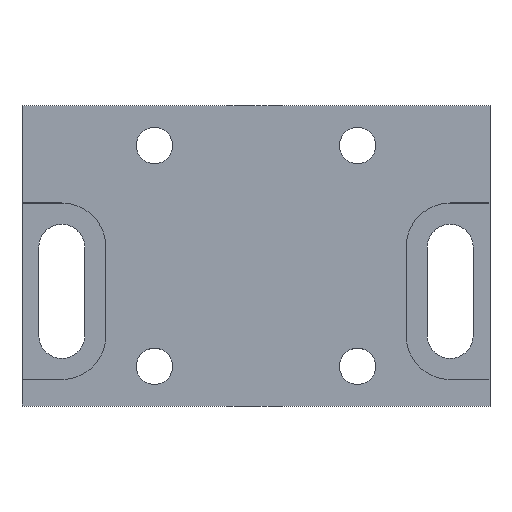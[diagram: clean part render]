
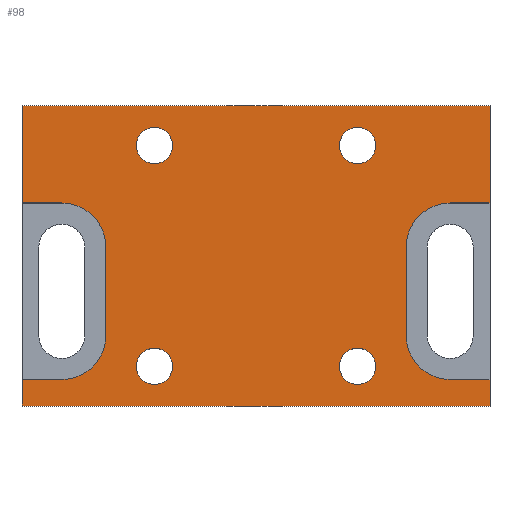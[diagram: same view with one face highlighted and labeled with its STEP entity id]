
A CAD part, top view. The second image highlights one B-rep face of the part: STEP entity #98.
In plain terms, the highlighted planar face has unit normal (0, 0, 1).
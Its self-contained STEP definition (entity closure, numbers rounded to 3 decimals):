
#98=ADVANCED_FACE('',(#421,#423,#425,#427,#429),#431,.T.);
#421=FACE_BOUND('',#422,.T.);
#422=EDGE_LOOP('',(#695,#696,#697,#698,#699,#700,#701,#702,#703,#704,#705,#706,#707,
#708,#709,#710));
#423=FACE_BOUND('',#424,.T.);
#424=EDGE_LOOP('',(#711));
#425=FACE_BOUND('',#426,.T.);
#426=EDGE_LOOP('',(#712));
#427=FACE_BOUND('',#428,.T.);
#428=EDGE_LOOP('',(#713));
#429=FACE_BOUND('',#430,.T.);
#430=EDGE_LOOP('',(#714));
#431=PLANE('',#432);
#432=AXIS2_PLACEMENT_3D('',#433,#434,#435);
#433=CARTESIAN_POINT('',(0.,0.,11.));
#434=DIRECTION('',(0.,0.,1.));
#435=DIRECTION('',(-1.,0.,0.));
#695=ORIENTED_EDGE('',*,*,#860,.T.);
#696=ORIENTED_EDGE('',*,*,#861,.T.);
#697=ORIENTED_EDGE('',*,*,#862,.T.);
#698=ORIENTED_EDGE('',*,*,#857,.T.);
#699=ORIENTED_EDGE('',*,*,#838,.T.);
#700=ORIENTED_EDGE('',*,*,#863,.T.);
#701=ORIENTED_EDGE('',*,*,#864,.T.);
#702=ORIENTED_EDGE('',*,*,#865,.T.);
#703=ORIENTED_EDGE('',*,*,#866,.T.);
#704=ORIENTED_EDGE('',*,*,#867,.T.);
#705=ORIENTED_EDGE('',*,*,#868,.T.);
#706=ORIENTED_EDGE('',*,*,#869,.T.);
#707=ORIENTED_EDGE('',*,*,#833,.T.);
#708=ORIENTED_EDGE('',*,*,#856,.T.);
#709=ORIENTED_EDGE('',*,*,#870,.T.);
#710=ORIENTED_EDGE('',*,*,#871,.T.);
#711=ORIENTED_EDGE('',*,*,#872,.T.);
#712=ORIENTED_EDGE('',*,*,#873,.T.);
#713=ORIENTED_EDGE('',*,*,#874,.T.);
#714=ORIENTED_EDGE('',*,*,#875,.T.);
#833=EDGE_CURVE('',#922,#920,#923,.T.);
#838=EDGE_CURVE('',#932,#930,#933,.T.);
#856=EDGE_CURVE('',#920,#964,#966,.T.);
#857=EDGE_CURVE('',#967,#932,#968,.T.);
#860=EDGE_CURVE('',#972,#973,#974,.F.);
#861=EDGE_CURVE('',#973,#975,#976,.F.);
#862=EDGE_CURVE('',#975,#967,#977,.F.);
#863=EDGE_CURVE('',#930,#978,#979,.T.);
#864=EDGE_CURVE('',#978,#980,#981,.F.);
#865=EDGE_CURVE('',#980,#982,#983,.F.);
#866=EDGE_CURVE('',#982,#984,#985,.F.);
#867=EDGE_CURVE('',#984,#986,#987,.F.);
#868=EDGE_CURVE('',#986,#988,#989,.F.);
#869=EDGE_CURVE('',#988,#922,#990,.T.);
#870=EDGE_CURVE('',#964,#991,#992,.F.);
#871=EDGE_CURVE('',#991,#972,#993,.F.);
#872=EDGE_CURVE('',#994,#994,#995,.F.);
#873=EDGE_CURVE('',#996,#996,#997,.F.);
#874=EDGE_CURVE('',#998,#998,#999,.F.);
#875=EDGE_CURVE('',#1000,#1000,#1001,.F.);
#920=VERTEX_POINT('',#1070);
#922=VERTEX_POINT('',#1074);
#923=LINE('',#1075,#1076);
#930=VERTEX_POINT('',#1091);
#932=VERTEX_POINT('',#1095);
#933=LINE('',#1096,#1097);
#964=VERTEX_POINT('',#1170);
#966=LINE('',#1174,#1175);
#967=VERTEX_POINT('',#1177);
#968=LINE('',#1178,#1179);
#972=VERTEX_POINT('',#1188);
#973=VERTEX_POINT('',#1189);
#974=LINE('',#1190,#1191);
#975=VERTEX_POINT('',#1193);
#976=CIRCLE('',#1194,5.);
#977=LINE('',#1198,#1199);
#978=VERTEX_POINT('',#1201);
#979=LINE('',#1202,#1203);
#980=VERTEX_POINT('',#1205);
#981=LINE('',#1206,#1207);
#982=VERTEX_POINT('',#1209);
#983=CIRCLE('',#1210,5.);
#984=VERTEX_POINT('',#1214);
#985=LINE('',#1215,#1216);
#986=VERTEX_POINT('',#1218);
#987=CIRCLE('',#1219,5.);
#988=VERTEX_POINT('',#1223);
#989=LINE('',#1224,#1225);
#990=LINE('',#1227,#1228);
#991=VERTEX_POINT('',#1230);
#992=LINE('',#1231,#1232);
#993=CIRCLE('',#1234,5.);
#994=VERTEX_POINT('',#1238);
#995=CIRCLE('',#1239,2.067);
#996=VERTEX_POINT('',#1243);
#997=CIRCLE('',#1244,2.067);
#998=VERTEX_POINT('',#1248);
#999=CIRCLE('',#1249,2.067);
#1000=VERTEX_POINT('',#1253);
#1001=CIRCLE('',#1254,2.067);
#1070=CARTESIAN_POINT('',(26.5,-17.,11.));
#1074=CARTESIAN_POINT('',(-26.5,-17.,11.));
#1075=CARTESIAN_POINT('',(-26.5,-17.,11.));
#1076=VECTOR('',#1077,1.);
#1077=DIRECTION('',(1.,0.,0.));
#1091=CARTESIAN_POINT('',(-26.5,17.,11.));
#1095=CARTESIAN_POINT('',(26.5,17.,11.));
#1096=CARTESIAN_POINT('',(26.5,17.,11.));
#1097=VECTOR('',#1098,1.);
#1098=DIRECTION('',(-1.,0.,0.));
#1170=CARTESIAN_POINT('',(26.5,-14.,11.));
#1174=CARTESIAN_POINT('',(26.5,-17.,11.));
#1175=VECTOR('',#1176,1.);
#1176=DIRECTION('',(0.,1.,0.));
#1177=CARTESIAN_POINT('',(26.5,6.,11.));
#1178=CARTESIAN_POINT('',(26.5,6.,11.));
#1179=VECTOR('',#1180,1.);
#1180=DIRECTION('',(0.,1.,0.));
#1188=CARTESIAN_POINT('',(17.,-9.,11.));
#1189=CARTESIAN_POINT('',(17.,1.,11.));
#1190=CARTESIAN_POINT('',(17.,1.,11.));
#1191=VECTOR('',#1192,1.);
#1192=DIRECTION('',(0.,-1.,0.));
#1193=CARTESIAN_POINT('',(22.,6.,11.));
#1194=AXIS2_PLACEMENT_3D('',#1195,#1196,#1197);
#1195=CARTESIAN_POINT('',(22.,1.,11.));
#1196=DIRECTION('',(0.,0.,1.));
#1197=DIRECTION('',(0.,1.,0.));
#1198=CARTESIAN_POINT('',(26.5,6.,11.));
#1199=VECTOR('',#1200,1.);
#1200=DIRECTION('',(-1.,0.,0.));
#1201=CARTESIAN_POINT('',(-26.5,6.,11.));
#1202=CARTESIAN_POINT('',(-26.5,17.,11.));
#1203=VECTOR('',#1204,1.);
#1204=DIRECTION('',(0.,-1.,0.));
#1205=CARTESIAN_POINT('',(-22.,6.,11.));
#1206=CARTESIAN_POINT('',(-22.,6.,11.));
#1207=VECTOR('',#1208,1.);
#1208=DIRECTION('',(-1.,0.,0.));
#1209=CARTESIAN_POINT('',(-17.,1.,11.));
#1210=AXIS2_PLACEMENT_3D('',#1211,#1212,#1213);
#1211=CARTESIAN_POINT('',(-22.,1.,11.));
#1212=DIRECTION('',(0.,0.,1.));
#1213=DIRECTION('',(1.,0.,0.));
#1214=CARTESIAN_POINT('',(-17.,-9.,11.));
#1215=CARTESIAN_POINT('',(-17.,-9.,11.));
#1216=VECTOR('',#1217,1.);
#1217=DIRECTION('',(0.,1.,0.));
#1218=CARTESIAN_POINT('',(-22.,-14.,11.));
#1219=AXIS2_PLACEMENT_3D('',#1220,#1221,#1222);
#1220=CARTESIAN_POINT('',(-22.,-9.,11.));
#1221=DIRECTION('',(0.,0.,1.));
#1222=DIRECTION('',(0.,-1.,0.));
#1223=CARTESIAN_POINT('',(-26.5,-14.,11.));
#1224=CARTESIAN_POINT('',(-26.5,-14.,11.));
#1225=VECTOR('',#1226,1.);
#1226=DIRECTION('',(1.,0.,0.));
#1227=CARTESIAN_POINT('',(-26.5,-14.,11.));
#1228=VECTOR('',#1229,1.);
#1229=DIRECTION('',(0.,-1.,0.));
#1230=CARTESIAN_POINT('',(22.,-14.,11.));
#1231=CARTESIAN_POINT('',(22.,-14.,11.));
#1232=VECTOR('',#1233,1.);
#1233=DIRECTION('',(1.,0.,0.));
#1234=AXIS2_PLACEMENT_3D('',#1235,#1236,#1237);
#1235=CARTESIAN_POINT('',(22.,-9.,11.));
#1236=DIRECTION('',(0.,0.,1.));
#1237=DIRECTION('',(-1.,0.,0.));
#1238=CARTESIAN_POINT('',(9.433,12.5,11.));
#1239=AXIS2_PLACEMENT_3D('',#1240,#1241,#1242);
#1240=CARTESIAN_POINT('',(11.5,12.5,11.));
#1241=DIRECTION('',(0.,0.,1.));
#1242=DIRECTION('',(-1.,0.,0.));
#1243=CARTESIAN_POINT('',(-13.567,-12.5,11.));
#1244=AXIS2_PLACEMENT_3D('',#1245,#1246,#1247);
#1245=CARTESIAN_POINT('',(-11.5,-12.5,11.));
#1246=DIRECTION('',(0.,0.,1.));
#1247=DIRECTION('',(-1.,0.,0.));
#1248=CARTESIAN_POINT('',(9.433,-12.5,11.));
#1249=AXIS2_PLACEMENT_3D('',#1250,#1251,#1252);
#1250=CARTESIAN_POINT('',(11.5,-12.5,11.));
#1251=DIRECTION('',(0.,0.,1.));
#1252=DIRECTION('',(-1.,0.,0.));
#1253=CARTESIAN_POINT('',(-13.567,12.5,11.));
#1254=AXIS2_PLACEMENT_3D('',#1255,#1256,#1257);
#1255=CARTESIAN_POINT('',(-11.5,12.5,11.));
#1256=DIRECTION('',(0.,0.,1.));
#1257=DIRECTION('',(-1.,0.,0.));
